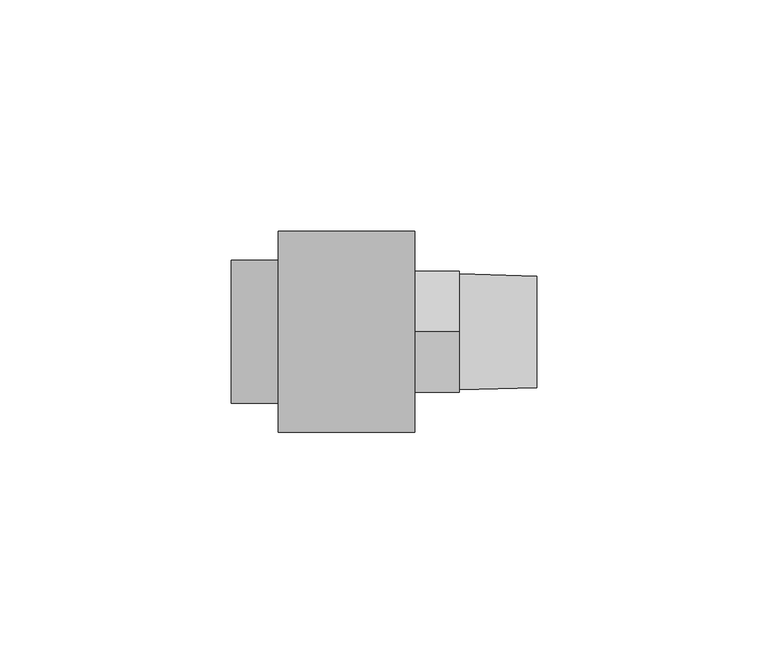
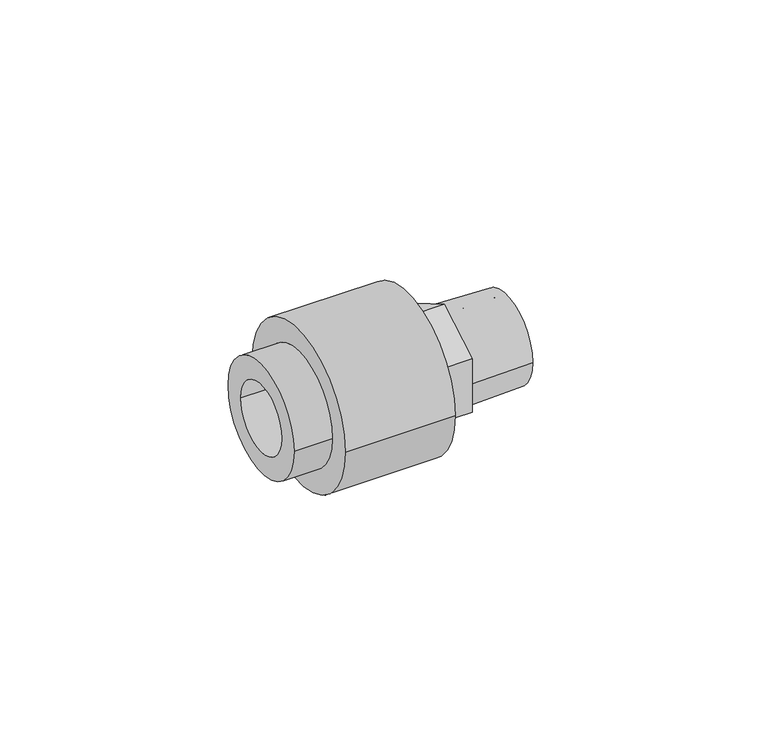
"""IFC4 building model written with IfcOpenShell, lengths in millimetres: pipe fitting geometry, Aquatherm - Fusion Outlet Transition Male : POTABLE BRASS - HEX."""

from ifc_helpers import new_model, si_unit, frame, origin, place, context, project, spatial, polyline, circle_curve, source, transform, mapped, element, save
from ifc_brep_helpers import plane_surface, cylinder_surface, revolved_surface, advanced_brep


def pipe_fitting_d3612229(model_context):
    return source(origin(), model_context, "Body", "AdvancedBrep", [
        advanced_brep(
        [(9.1241563, 15.494, 0.0), (9.1241563, -15.494, 0.0), (9.1241563, 9.525, 0.0), (9.1241563, -9.525, 0.0), (29.4441563, 15.494, 0.0), (29.4441563, -15.494, 0.0), (29.4441563, 0.0, -15.1046377), (29.4441563, -13.081, -7.5523189), (29.4441563, -13.081, 7.5523189), (29.4441563, 0.0, 15.1046377), (29.4441563, 13.081, 7.5523189), (29.4441563, 13.081, -7.5523189), (29.4441563, 9.525, 0.0), (29.4441563, -9.525, 0.0), (39.0961563, 0.0, -15.1046377), (39.0961563, 13.081, -7.5523189), (39.0961563, 13.081, 7.5523189), (39.0961563, 0.0, 15.1046377), (39.0961563, -13.081, 7.5523189), (39.0961563, -13.081, -7.5523189), (39.0961563, 12.5560449, 0.0), (39.0961563, -12.5560449, 0.0), (39.0961563, 9.525, 0.0), (39.0961563, -9.525, 0.0), (55.8601563, -9.525, 0.0), (55.8601563, 9.525, 0.0), (55.8601563, -12.0502051, 0.0), (55.8601563, 12.0502051, 0.0)],
        [
            (0, 1, circle_curve(frame((9.1241563, 0.0, 0.0), z_axis=(-1.0, 0.0, 0.0), x_axis=(0.0, -1.0, 0.0)), 15.494)),
            (1, 0, circle_curve(frame((9.1241563, 0.0, 0.0), z_axis=(-1.0, 0.0, 0.0), x_axis=(0.0, -1.0, 0.0)), 15.494)),
            (2, 3, circle_curve(frame((9.1241563, 0.0, 0.0), z_axis=(1.0, 0.0, 0.0), x_axis=(0.0, -1.0, 0.0)), 9.525)),
            (3, 2, circle_curve(frame((9.1241563, 0.0, 0.0), z_axis=(1.0, 0.0, 0.0), x_axis=(0.0, -1.0, 0.0)), 9.525)),
            (4, 5, circle_curve(frame((29.4441563, 0.0, 0.0), z_axis=(1.0, 0.0, 0.0), x_axis=(0.0, -1.0, 0.0)), 15.494)),
            (5, 4, circle_curve(frame((29.4441563, 0.0, 0.0), z_axis=(1.0, 0.0, 0.0), x_axis=(0.0, -1.0, 0.0)), 15.494)),
            (6, 7),
            (7, 8),
            (8, 9),
            (9, 10),
            (10, 11),
            (11, 6),
            (0, 4),
            (5, 1),
            (2, 12),
            (12, 13, circle_curve(frame((29.4441563, 0.0, 0.0), z_axis=(1.0, 0.0, 0.0), x_axis=(0.0, -1.0, 0.0)), 9.525)),
            (13, 3),
            (13, 12, circle_curve(frame((29.4441563, 0.0, 0.0), z_axis=(1.0, 0.0, 0.0), x_axis=(0.0, -1.0, 0.0)), 9.525)),
            (14, 15),
            (15, 16),
            (16, 17),
            (17, 18),
            (18, 19),
            (19, 14),
            (20, 21, circle_curve(frame((39.0961563, 0.0, 0.0), z_axis=(-1.0, 0.0, 0.0), x_axis=(0.0, -1.0, 0.0)), 12.5560449)),
            (21, 20, circle_curve(frame((39.0961563, 0.0, 0.0), z_axis=(-1.0, 0.0, 0.0), x_axis=(0.0, -1.0, 0.0)), 12.5560449)),
            (19, 7),
            (6, 14),
            (18, 8),
            (17, 9),
            (16, 10),
            (15, 11),
            (12, 22),
            (22, 23, circle_curve(frame((39.0961563, 0.0, 0.0), z_axis=(1.0, 0.0, 0.0), x_axis=(0.0, -1.0, 0.0)), 9.525)),
            (23, 13),
            (23, 22, circle_curve(frame((39.0961563, 0.0, 0.0), z_axis=(1.0, 0.0, 0.0), x_axis=(0.0, -1.0, 0.0)), 9.525)),
            (23, 24),
            (24, 25, circle_curve(frame((55.8601563, 0.0, 0.0), z_axis=(1.0, 0.0, 0.0), x_axis=(0.0, -1.0, 0.0)), 9.525)),
            (25, 22),
            (25, 24, circle_curve(frame((55.8601563, 0.0, 0.0), z_axis=(1.0, 0.0, 0.0), x_axis=(0.0, -1.0, 0.0)), 9.525)),
            (24, 26),
            (26, 27, circle_curve(frame((55.8601563, 0.0, 0.0), z_axis=(1.0, 0.0, 0.0), x_axis=(0.0, -1.0, 0.0)), 12.0502051)),
            (27, 25),
            (27, 26, circle_curve(frame((55.8601563, 0.0, 0.0), z_axis=(1.0, 0.0, 0.0), x_axis=(0.0, -1.0, 0.0)), 12.0502051)),
            (26, 21),
            (20, 27),
        ],
        [
            plane_surface(frame((9.1241563, -15.494, 0.0), z_axis=(-1.0, 0.0, 0.0), x_axis=(0.0, 0.0, 1.0))),
            plane_surface(frame((29.4441563, -15.494, 0.0), z_axis=(1.0, 0.0, 0.0), x_axis=(0.0, 0.0, -1.0))),
            cylinder_surface(frame((29.4441563, 0.0, 0.0), z_axis=(-1.0, 0.0, 0.0), x_axis=(0.0, -1.0, 0.0)), 15.494),
            revolved_surface(polyline([(29.444156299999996, -9.525, 0.0), (9.1241563, -9.525, 0.0)]), (11.9969372, 0.0, 0.0), (1.0, 0.0, 0.0)),
            plane_surface(frame((39.0961563, 0.0, -15.1046377), z_axis=(1.0000000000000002, 0.0, 0.0), x_axis=(0.0, 0.8660254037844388, -0.49999999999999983))),
            plane_surface(frame((29.4441563, 0.0, -15.1046377), z_axis=(0.0, -0.49999999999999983, -0.8660254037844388), x_axis=(1.0, 0.0, 0.0))),
            plane_surface(frame((29.4441563, -13.081, -7.5523189), z_axis=(0.0, -1.0, 0.0), x_axis=(1.0, 0.0, 0.0))),
            plane_surface(frame((29.4441563, -13.081, 7.5523189), z_axis=(0.0, -0.4999999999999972, 0.8660254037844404), x_axis=(1.0, 0.0, 0.0))),
            plane_surface(frame((29.4441563, 0.0, 15.1046377), z_axis=(0.0, 0.500000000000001, 0.8660254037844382), x_axis=(1.0, 0.0, 0.0))),
            plane_surface(frame((29.4441563, 13.081, 7.5523189), z_axis=(0.0, 1.0, 0.0), x_axis=(1.0, 0.0, 0.0))),
            plane_surface(frame((29.4441563, 13.081, -7.5523189), z_axis=(0.0, 0.49999999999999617, -0.8660254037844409), x_axis=(1.0, 0.0, 0.0))),
            revolved_surface(polyline([(39.0961563, -9.525, 0.0), (29.4441563, -9.525, 0.0)]), (29.4441563, 0.0, 0.0), (1.0, 0.0, 0.0)),
            revolved_surface(polyline([(55.8601563, -9.525, 0.0), (39.0961563, -9.525, 0.0)]), (90.7332251, 0.0, 0.0), (1.0, 0.0, 0.0)),
            plane_surface(frame((55.8601563, 0.0, 0.0), z_axis=(1.0, 0.0, 0.0), x_axis=(0.0, -1.0, 0.0))),
            revolved_surface(polyline([(39.0961563, -12.5560449, 0.0), (55.8601563, -12.0502051, 0.0)]), (90.7332251, 0.0, 0.0), (1.0, 0.0, 0.0)),
        ],
        [
            (0, [[1, 2], [3, 4]]),
            (1, [[5, 6], [7, 8, 9, 10, 11, 12]]),
            (2, [[-1, 13, -6, 14]]),
            (2, [[-2, -14, -5, -13]]),
            (3, [[-3, 15, 16, 17]]),
            (3, [[-4, -17, 18, -15]]),
            (4, [[19, 20, 21, 22, 23, 24], [25, 26]]),
            (5, [[-24, 27, -7, 28]]),
            (6, [[-23, 29, -8, -27]]),
            (7, [[-22, 30, -9, -29]]),
            (8, [[-21, 31, -10, -30]]),
            (9, [[-20, 32, -11, -31]]),
            (10, [[-19, -28, -12, -32]]),
            (11, [[33, 34, 35, -16]]),
            (11, [[-33, -18, -35, 36]]),
            (12, [[37, 38, 39, -36]]),
            (12, [[-37, -34, -39, 40]]),
            (13, [[-38, 41, 42, 43]]),
            (13, [[-40, -43, 44, -41]]),
            (14, [[-42, 45, -25, 46]]),
            (14, [[-44, -46, -26, -45]]),
        ],
    ),
        advanced_brep(
        [(9.128125, 15.478125, 0.0), (9.128125, -15.478125, 0.0), (9.128125, 9.525, 0.0), (9.128125, -9.525, 0.0), (-10.16, -9.525, 0.0), (-10.16, 9.525, 0.0), (-10.16, -15.478125, 0.0), (-10.16, 15.478125, 0.0), (0.0, 15.478125, 0.0), (0.0, -15.478125, 0.0), (29.4441562, 21.7289063, 0.0), (29.4441562, -21.7289063, 0.0), (29.4441562, 15.478125, 0.0), (29.4441562, -15.478125, 0.0), (0.0, -21.7289063, 0.0), (0.0, 21.7289063, 0.0)],
        [
            (0, 1, circle_curve(frame((9.128125, 0.0, 0.0), z_axis=(1.0, 0.0, 0.0), x_axis=(0.0, -1.0, 0.0)), 15.478125)),
            (1, 0, circle_curve(frame((9.128125, 0.0, 0.0), z_axis=(1.0, 0.0, 0.0), x_axis=(0.0, -1.0, 0.0)), 15.478125)),
            (2, 3, circle_curve(frame((9.128125, 0.0, 0.0), z_axis=(-1.0, 0.0, 0.0), x_axis=(0.0, -1.0, 0.0)), 9.525)),
            (3, 2, circle_curve(frame((9.128125, 0.0, 0.0), z_axis=(-1.0, 0.0, 0.0), x_axis=(0.0, -1.0, 0.0)), 9.525)),
            (4, 5, circle_curve(frame((-10.16, 0.0, 0.0), z_axis=(-1.0, 0.0, 0.0), x_axis=(0.0, -1.0, 0.0)), 9.525)),
            (5, 2),
            (3, 4),
            (5, 4, circle_curve(frame((-10.16, 0.0, 0.0), z_axis=(-1.0, 0.0, 0.0), x_axis=(0.0, -1.0, 0.0)), 9.525)),
            (6, 7, circle_curve(frame((-10.16, 0.0, 0.0), z_axis=(1.0, 0.0, 0.0), x_axis=(0.0, -1.0, 0.0)), 15.478125)),
            (7, 8),
            (8, 9, circle_curve(frame((0.0, 0.0, 0.0), z_axis=(-1.0, 0.0, 0.0), x_axis=(0.0, -1.0, 0.0)), 15.478125)),
            (9, 6),
            (7, 6, circle_curve(frame((-10.16, 0.0, 0.0), z_axis=(1.0, 0.0, 0.0), x_axis=(0.0, -1.0, 0.0)), 15.478125)),
            (9, 8, circle_curve(frame((0.0, 0.0, 0.0), z_axis=(-1.0, 0.0, 0.0), x_axis=(0.0, -1.0, 0.0)), 15.478125)),
            (10, 11, circle_curve(frame((29.4441562, 0.0, 0.0), z_axis=(1.0, 0.0, 0.0), x_axis=(0.0, -1.0, 0.0)), 21.7289063)),
            (11, 10, circle_curve(frame((29.4441562, 0.0, 0.0), z_axis=(1.0, 0.0, 0.0), x_axis=(0.0, -1.0, 0.0)), 21.7289063)),
            (12, 13, circle_curve(frame((29.4441562, 0.0, 0.0), z_axis=(-1.0, 0.0, 0.0), x_axis=(0.0, -1.0, 0.0)), 15.478125)),
            (13, 12, circle_curve(frame((29.4441562, 0.0, 0.0), z_axis=(-1.0, 0.0, 0.0), x_axis=(0.0, -1.0, 0.0)), 15.478125)),
            (13, 1),
            (0, 12),
            (11, 14),
            (14, 15, circle_curve(frame((0.0, 0.0, 0.0), z_axis=(1.0, 0.0, 0.0), x_axis=(0.0, -1.0, 0.0)), 21.7289063)),
            (15, 10),
            (15, 14, circle_curve(frame((0.0, 0.0, 0.0), z_axis=(1.0, 0.0, 0.0), x_axis=(0.0, -1.0, 0.0)), 21.7289063)),
        ],
        [
            plane_surface(frame((9.128125, -9.525, 0.0), z_axis=(1.0, 0.0, 0.0), x_axis=(0.0, 0.0, 1.0))),
            revolved_surface(polyline([(9.128125, -9.525, 0.0), (-10.16, -9.525, 0.0)]), (9.128125, 0.0, 0.0), (1.0, 0.0, 0.0)),
            cylinder_surface(frame((0.0, 0.0, 0.0), z_axis=(-1.0, 0.0, 0.0), x_axis=(0.0, -1.0, 0.0)), 15.478125),
            plane_surface(frame((29.4441562, -15.478125, 0.0), z_axis=(1.0, 0.0, 0.0), x_axis=(0.0, 0.0, 1.0))),
            revolved_surface(polyline([(29.4441562, -15.478125, 0.0), (9.128125, -15.478125, 0.0)]), (29.4441562, 0.0, 0.0), (1.0, 0.0, 0.0)),
            cylinder_surface(frame((0.0, 0.0, 0.0), z_axis=(-1.0, 0.0, 0.0), x_axis=(0.0, -1.0, 0.0)), 21.7289063),
            plane_surface(frame((-10.16, -9.525, 0.0), z_axis=(-1.0, 0.0, 0.0), x_axis=(0.0, 0.0, -1.0))),
            plane_surface(frame((0.0, -15.478125, 0.0), z_axis=(-1.0, 0.0, 0.0), x_axis=(0.0, 0.0, -1.0))),
        ],
        [
            (0, [[1, 2], [3, 4]]),
            (1, [[5, 6, -4, 7]]),
            (1, [[8, -7, -3, -6]]),
            (2, [[9, 10, 11, 12]]),
            (2, [[13, -12, 14, -10]]),
            (3, [[15, 16], [17, 18]]),
            (4, [[-18, 19, -1, 20]]),
            (4, [[-17, -20, -2, -19]]),
            (5, [[-16, 21, 22, 23]]),
            (5, [[-15, -23, 24, -21]]),
            (6, [[-9, -13], [-5, -8]]),
            (7, [[-22, -24], [-11, -14]]),
        ],
    ),
    ])


if __name__ == "__main__":
    model = new_model("IFC4")
    model_context = context("Model", 3, world=origin())
    ifc_project = project(units=[si_unit("LENGTHUNIT", "METRE", prefix="MILLI")], contexts=[model_context])
    site = spatial("IfcSite", under=ifc_project)
    building = spatial("IfcBuilding", under=site)
    placement = place(None, origin())
    pipe_fitting_shape = pipe_fitting_d3612229(model_context)
    element("IfcPipeFitting", 1, ObjectType="Aquatherm - Fusion Outlet Transition Male : POTABLE BRASS - HEX", at=placement, inside=building, context=model_context, shape_type="MappedRepresentation", body=[
        mapped(pipe_fitting_shape, transform((0.0, 0.0, 0.0), x_axis=(1.0, 0.0, 0.0), y_axis=(0.0, 1.0, 0.0), z_axis=(0.0, 0.0, 1.0))),
    ])
    save(model, "model.ifc")
